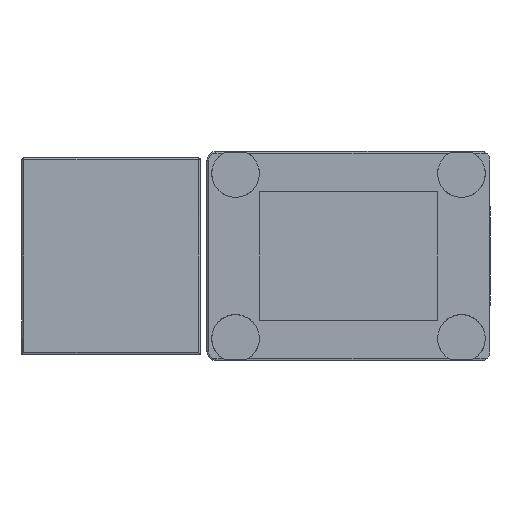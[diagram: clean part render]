
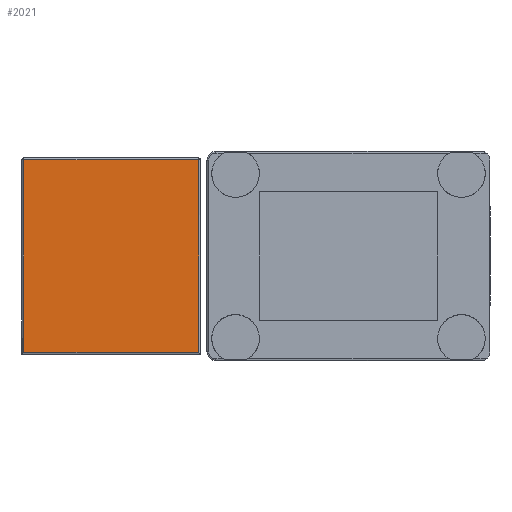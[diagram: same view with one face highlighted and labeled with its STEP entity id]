
A CAD part, left-side view. The second image highlights one B-rep face of the part: STEP entity #2021.
In plain terms, the highlighted planar face has unit normal (-1, 0, 0).
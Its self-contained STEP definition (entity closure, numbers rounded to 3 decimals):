
#854 = CARTESIAN_POINT ( 'NONE',  ( -38., 31.75, -10.8 ) ) ;
#1023 = DIRECTION ( 'NONE',  ( 0., 0., -1. ) ) ;
#1377 = LINE ( 'NONE', #854, #6075 ) ;
#1655 = ORIENTED_EDGE ( 'NONE', *, *, #7553, .T. ) ;
#1722 = VECTOR ( 'NONE', #5496, 1000. ) ;
#1842 = EDGE_CURVE ( 'NONE', #7774, #3306, #8630, .T. ) ;
#2021 = ADVANCED_FACE ( 'NONE', ( #3360 ), #7234, .T. ) ;
#2161 = VERTEX_POINT ( 'NONE', #2393 ) ;
#2393 = CARTESIAN_POINT ( 'NONE',  ( -38., 51.55, -10.8 ) ) ;
#2944 = CARTESIAN_POINT ( 'NONE',  ( -38., 49.75, -10. ) ) ;
#3016 = CARTESIAN_POINT ( 'NONE',  ( -38., 31.95, -10.8 ) ) ;
#3282 = CARTESIAN_POINT ( 'NONE',  ( -38., 31.95, -10. ) ) ;
#3306 = VERTEX_POINT ( 'NONE', #7572 ) ;
#3360 = FACE_OUTER_BOUND ( 'NONE', #7858, .T. ) ;
#3938 = LINE ( 'NONE', #3282, #1722 ) ;
#3967 = ORIENTED_EDGE ( 'NONE', *, *, #1842, .T. ) ;
#4292 = VECTOR ( 'NONE', #1023, 1000. ) ;
#4359 = DIRECTION ( 'NONE',  ( 0., 0., 1. ) ) ;
#4478 = CARTESIAN_POINT ( 'NONE',  ( -38., 31.95, 10.8 ) ) ;
#4965 = AXIS2_PLACEMENT_3D ( 'NONE', #2944, #8671, #4359 ) ;
#5314 = CARTESIAN_POINT ( 'NONE',  ( -38., 51.55, -10. ) ) ;
#5496 = DIRECTION ( 'NONE',  ( 0., 0., 1. ) ) ;
#6075 = VECTOR ( 'NONE', #8597, 1000. ) ;
#6182 = ORIENTED_EDGE ( 'NONE', *, *, #8782, .T. ) ;
#6314 = LINE ( 'NONE', #5314, #4292 ) ;
#6723 = VECTOR ( 'NONE', #7526, 1000. ) ;
#6830 = VERTEX_POINT ( 'NONE', #3016 ) ;
#6855 = CARTESIAN_POINT ( 'NONE',  ( -38., 51.75, 10.8 ) ) ;
#7234 = PLANE ( 'NONE',  #4965 ) ;
#7448 = ORIENTED_EDGE ( 'NONE', *, *, #7654, .T. ) ;
#7526 = DIRECTION ( 'NONE',  ( 0., 1., 0. ) ) ;
#7553 = EDGE_CURVE ( 'NONE', #6830, #7774, #3938, .T. ) ;
#7572 = CARTESIAN_POINT ( 'NONE',  ( -38., 51.55, 10.8 ) ) ;
#7654 = EDGE_CURVE ( 'NONE', #2161, #6830, #1377, .T. ) ;
#7774 = VERTEX_POINT ( 'NONE', #4478 ) ;
#7858 = EDGE_LOOP ( 'NONE', ( #6182, #7448, #1655, #3967 ) ) ;
#8597 = DIRECTION ( 'NONE',  ( 0., -1., 0. ) ) ;
#8630 = LINE ( 'NONE', #6855, #6723 ) ;
#8671 = DIRECTION ( 'NONE',  ( -1., 0., 0. ) ) ;
#8782 = EDGE_CURVE ( 'NONE', #3306, #2161, #6314, .T. ) ;
